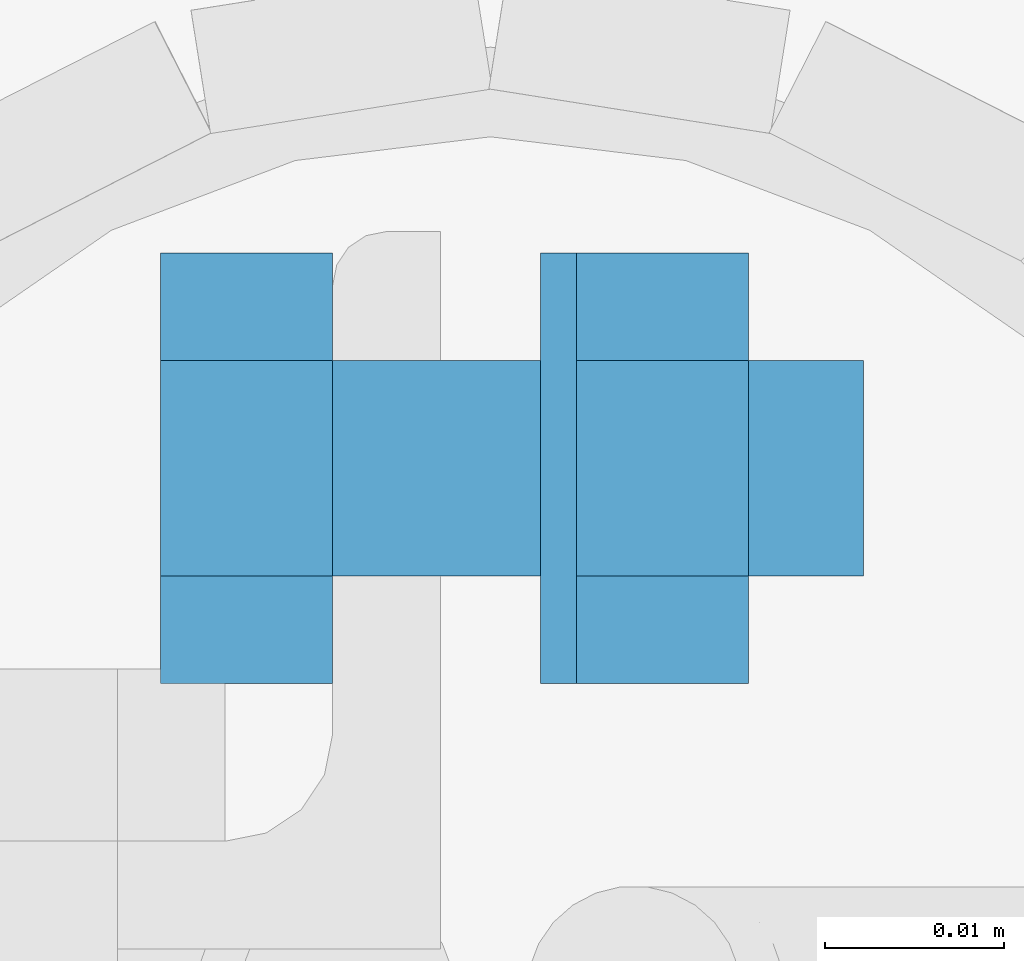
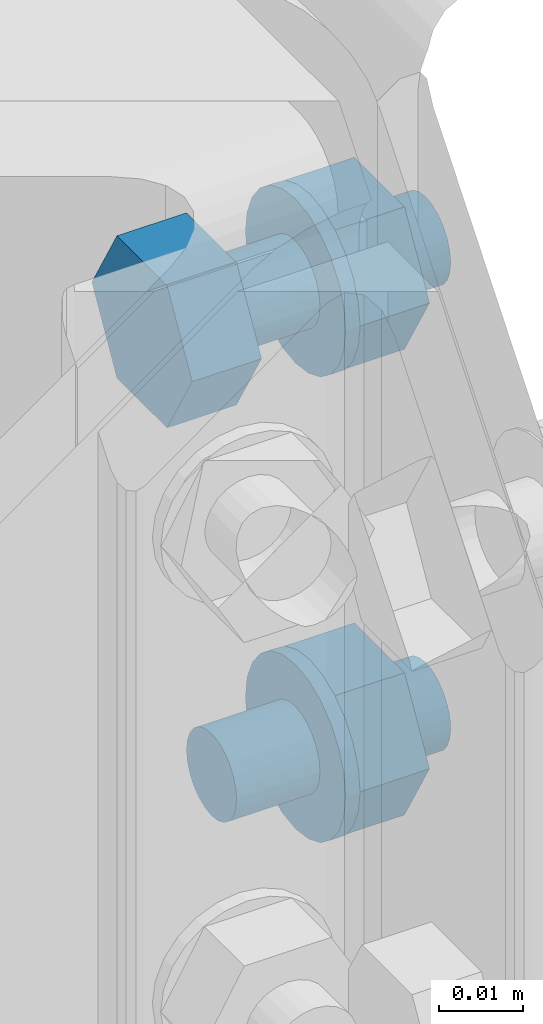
# One storey, part 23 of 84: 7 mechanical fasteners.
"""IFC4 building model written with IfcOpenShell, lengths in metres."""

import ifcopenshell
import ifcopenshell.guid

model = None  # the IFC model being written
_history = None  # IfcOwnerHistory: only IFC2X3 demands one
_inside = {}  # id of a spatial element -> (the spatial element, [elements in it])
_under = {}  # id of a project, library or spatial element -> (it, [spatial elements below it])
_declared = {}  # id of a project -> (the project, [libraries it declares])
_typed = {}  # id of a type object -> (the type object, [elements of that type])
_made_of = {}  # id of a material, layer set ... -> (it, [elements and type objects made of it])


def new_model(schema):
    """Start an empty IFC model of exactly this schema.

    Asked for "IFC4X3", IfcOpenShell would pick the latest addendum, in which some entities
    have other attributes; the version numbers below select the first issue.
    IFC2X3 requires an IfcOwnerHistory on every rooted entity: one is made here for all.
    """
    global model, _history
    if schema == "IFC4X3":
        model = ifcopenshell.file(schema_version=(4, 3, 0, 0))
    else:
        model = ifcopenshell.file(schema=schema)
    _inside.clear()
    _under.clear()
    _declared.clear()
    _typed.clear()
    _made_of.clear()
    _history = None
    if model.schema == "IFC2X3":
        org = make("IfcOrganization", Name="unknown")
        user = make(
            "IfcPersonAndOrganization",
            ThePerson=make("IfcPerson", FamilyName="unknown"),
            TheOrganization=org,
        )
        app = make(
            "IfcApplication",
            ApplicationDeveloper=org,
            Version="unknown",
            ApplicationFullName="unknown",
            ApplicationIdentifier="unknown",
        )
        _history = make(
            "IfcOwnerHistory",
            OwningUser=user,
            OwningApplication=app,
            ChangeAction="ADDED",
            CreationDate=0,
        )
    return model


def make(cls, **values):
    """One entity of the class cls with the attributes given. An attribute that is None is left unset."""
    return model.create_entity(
        cls, **{name: value for name, value in values.items() if value is not None}
    )


def rooted(cls, **values):
    """An entity with a GlobalId (a new one), such as an element, a storey or a relation."""
    return make(cls, GlobalId=ifcopenshell.guid.new(), OwnerHistory=_history, **values)


def si_unit(unit_type, name, prefix=None):
    """IfcSIUnit, for example si_unit("LENGTHUNIT", "METRE", prefix="MILLI")."""
    return make("IfcSIUnit", UnitType=unit_type, Prefix=prefix, Name=name)


def assignment(units):
    """IfcUnitAssignment: the units of a project."""
    return None if units is None else make("IfcUnitAssignment", Units=units)


def point(xyz):
    """IfcCartesianPoint."""
    return None if xyz is None else make("IfcCartesianPoint", Coordinates=xyz)


def direction(xyz):
    """IfcDirection."""
    return None if xyz is None else make("IfcDirection", DirectionRatios=xyz)


def frame(location, z_axis=None, x_axis=None):
    """IfcAxis2Placement3D, a coordinate frame: its origin and axes. An axis left out is left unset."""
    return make(
        "IfcAxis2Placement3D",
        Location=point(location),
        Axis=direction(z_axis),
        RefDirection=direction(x_axis),
    )


def origin_with_axes():
    """The frame at (0, 0, 0) with the z axis (0, 0, 1) and the x axis (1, 0, 0) written out."""
    return frame((0.0, 0.0, 0.0), z_axis=(0.0, 0.0, 1.0), x_axis=(1.0, 0.0, 0.0))


def place(relative_to, where):
    """IfcLocalPlacement: puts the frame where relative to a parent placement (None: the world)."""
    return make(
        "IfcLocalPlacement", PlacementRelTo=relative_to, RelativePlacement=where
    )


def context(
    kind, dimensions, precision=None, world=None, true_north=None, identifier=None
):
    """IfcGeometricRepresentationContext, for example the 3D "Model" context."""
    return make(
        "IfcGeometricRepresentationContext",
        ContextIdentifier=identifier,
        ContextType=kind,
        CoordinateSpaceDimension=dimensions,
        Precision=precision,
        WorldCoordinateSystem=world,
        TrueNorth=true_north,
    )


def project(units=None, contexts=None):
    """IfcProject with its units and contexts."""
    return rooted(
        "IfcProject",
        Name="project",
        RepresentationContexts=contexts,
        UnitsInContext=assignment(units),
    )


def spatial(cls, under=None, at=None, **own):
    """A site, building, storey or space (cls), placed at a placement, below another one or the project."""
    s = rooted(cls, ObjectPlacement=at, **own)
    if under is not None:
        _under.setdefault(under.id(), (under, []))[1].append(s)
    return s


def polyline(points):
    """IfcPolyline through the points."""
    return make("IfcPolyline", Points=[point(p) for p in points])


def outline(outer, holes=None, kind="AREA"):
    """IfcArbitraryClosedProfileDef: a profile drawn as a closed curve; with holes, ...WithVoids."""
    if holes is None:
        return make("IfcArbitraryClosedProfileDef", ProfileType=kind, OuterCurve=outer)
    return make(
        "IfcArbitraryProfileDefWithVoids",
        ProfileType=kind,
        OuterCurve=outer,
        InnerCurves=holes,
    )


def extrude(swept, where, along, depth):
    """IfcExtrudedAreaSolid: the profile swept, set in the frame where, extruded along a direction by depth."""
    return make(
        "IfcExtrudedAreaSolid",
        SweptArea=swept,
        Position=where,
        ExtrudedDirection=direction(along),
        Depth=depth,
    )


def shape(context_of_items, identifier, shape_type, items):
    """IfcShapeRepresentation: the items that make up one representation, for example the "Body"."""
    return make(
        "IfcShapeRepresentation",
        ContextOfItems=context_of_items,
        RepresentationIdentifier=identifier,
        RepresentationType=shape_type,
        Items=items,
    )


def made_of(thing, what):
    """Note that an element or type object is made of a material, layer set ...; save() writes the relation."""
    if what is not None:
        _made_of.setdefault(what.id(), (what, []))[1].append(thing)
    return thing


def type_object(cls, material=None, **own):
    """A type object (cls), such as IfcWallType, which elements share."""
    return made_of(rooted(cls, **own), material)


def element(
    cls,
    number,
    at=None,
    inside=None,
    cuts=None,
    type_object=None,
    material=None,
    context=None,
    identifier="Body",
    shape_type=None,
    held_by="IfcProductDefinitionShape",
    body=None,
    shapes=None,
    **own,
):
    """One element of the class cls, such as IfcWall. Its Tag is "e" and its number.

    at: its placement. inside: the storey or other place that contains it. cuts: it is an
    opening in that element (IfcRelVoidsElement). A single representation is given by context,
    identifier, shape_type and body (its items); several are given by shapes. held_by: the class
    of the entity that holds the representations. save() writes the other relations.
    """
    e = rooted(cls, Tag="e%d" % number, ObjectPlacement=at, **own)
    if body is not None:
        shapes = [shape(context, identifier, shape_type, body)]
    if shapes is not None:
        e.Representation = make(held_by, Representations=shapes)
    if inside is not None:
        _inside.setdefault(inside.id(), (inside, []))[1].append(e)
    if cuts is not None:
        rooted(
            "IfcRelVoidsElement", RelatingBuildingElement=cuts, RelatedOpeningElement=e
        )
    if type_object is not None:
        _typed.setdefault(type_object.id(), (type_object, []))[1].append(e)
    return made_of(e, material)


def aggregate(whole, parts):
    """IfcRelAggregates: a whole, such as a stair, and the parts it consists of."""
    return rooted("IfcRelAggregates", RelatingObject=whole, RelatedObjects=parts)


def save(model, path):
    """Write the relations noted so far, then the file.

    IfcRelAggregates (storeys below a building ...), IfcRelContainedInSpatialStructure (elements
    in a storey), IfcRelDefinesByType, IfcRelAssociatesMaterial and IfcRelDeclares: one each for
    every whole, place, type object, material and project.
    """
    for whole, parts in _under.values():
        aggregate(whole, parts)
    for where, things in _inside.values():
        rooted(
            "IfcRelContainedInSpatialStructure",
            RelatedElements=things,
            RelatingStructure=where,
        )
    for kind, things in _typed.values():
        rooted("IfcRelDefinesByType", RelatedObjects=things, RelatingType=kind)
    for what, things in _made_of.values():
        rooted("IfcRelAssociatesMaterial", RelatedObjects=things, RelatingMaterial=what)
    for by, libraries in _declared.values():
        rooted("IfcRelDeclares", RelatingContext=by, RelatedDefinitions=libraries)
    model.write(path)


model = new_model("IFC4")

# Units and contexts
model_context = context("Model", 3, precision=1e-05, world=origin_with_axes())
ifc_project = project(units=[si_unit("LENGTHUNIT", "METRE"), si_unit("AREAUNIT", "SQUARE_METRE"), si_unit("VOLUMEUNIT", "CUBIC_METRE"), si_unit("MASSUNIT", "GRAM", prefix="KILO"), si_unit("TIMEUNIT", "SECOND"), si_unit("PLANEANGLEUNIT", "RADIAN"), si_unit("SOLIDANGLEUNIT", "STERADIAN"), si_unit("THERMODYNAMICTEMPERATUREUNIT", "DEGREE_CELSIUS")], contexts=[model_context])

# Site, building, storey
placement_1 = place(None, origin_with_axes())
site = spatial("IfcSite", under=ifc_project, at=placement_1, Name="Italia", CompositionType="ELEMENT")
building = spatial("IfcBuilding", under=site, at=placement_1, Name="Tettoia", CompositionType="ELEMENT")
storey_placement = place(None, frame((0.0, 0.0, 4.199999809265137), z_axis=(0.0, 0.0, 1.0), x_axis=(1.0, 0.0, 0.0)))
storey = spatial("IfcBuildingStorey", under=building, at=storey_placement, Name="Storey 1", CompositionType="ELEMENT", Elevation=4.199999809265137)

# Mechanical fasteners
mechanical_fastener_type_1 = type_object("IfcMechanicalFastenerType", Name="Collegamento 0102_0101", PredefinedType="BOLT")
placement_2 = place(placement_1, origin_with_axes())
mechanical_fastener_1_placement = place(placement_2, origin_with_axes())
element("IfcMechanicalFastener", 1, at=mechanical_fastener_1_placement, inside=storey, type_object=mechanical_fastener_type_1, Name="Collegamento 0102_0101", NominalDiameter=0.012, context=model_context, shape_type="SweptSolid", body=[
    extrude(outline(polyline([(0.0, 0.0), (-0.000204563, -0.00155306), (-0.000803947, -0.00299978), (-0.00175738, -0.00424242), (-0.00300002, -0.00519609), (-0.00444722, -0.00579548), (-0.00600004, -0.00600004), (-0.00755286, -0.00579548), (-0.00900006, -0.00519609), (-0.0102427, -0.00424242), (-0.0111961, -0.00299978), (-0.0117955, -0.00155306), (-0.0120001, 0.0), (-0.0117955, 0.00155306), (-0.0111961, 0.00299978), (-0.0102427, 0.00424242), (-0.00900006, 0.00519609), (-0.00755286, 0.00579548), (-0.00600004, 0.00600004), (-0.00444722, 0.00579548), (-0.00300002, 0.00519609), (-0.00175738, 0.00424242), (-0.000803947, 0.00299978), (-0.000204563, 0.00155306), (0.0, 0.0)])), frame((11.2812, 2.0353, 4.266), z_axis=(1.0, 0.0, 0.0), x_axis=(0.0, 1.0, 0.0)), (0.0, 0.0, 1.0), 0.0295992),
])
mechanical_fastener_type_2 = type_object("IfcMechanicalFastenerType", Name="Collegamento 0102_0101", PredefinedType="BOLT")
mechanical_fastener_2_placement = place(placement_2, origin_with_axes())
element("IfcMechanicalFastener", 2, at=mechanical_fastener_2_placement, inside=storey, type_object=mechanical_fastener_type_2, Name="Collegamento 0102_0101", NominalDiameter=0.0119999, context=model_context, shape_type="SweptSolid", body=[
    extrude(outline(polyline([(0.0, 0.0), (-0.0120001, 0.0), (-0.0180001, 0.0103922), (-0.0120001, 0.0207844), (0.0, 0.0207844), (0.00600004, 0.0103922), (0.0, 0.0)])), frame((11.2948, 2.0353, 4.25561), z_axis=(1.0, 0.0, 0.0), x_axis=(0.0, 1.0, 0.0)), (0.0, 0.0, 1.0), 0.00960064),
])
mechanical_fastener_type_3 = type_object("IfcMechanicalFastenerType", Name="Collegamento 0102_0101", PredefinedType="BOLT")
mechanical_fastener_3_placement = place(placement_2, origin_with_axes())
element("IfcMechanicalFastener", 3, at=mechanical_fastener_3_placement, inside=storey, type_object=mechanical_fastener_type_3, Name="Collegamento 0102_0101", NominalDiameter=0.024, context=model_context, shape_type="SweptSolid", body=[
    extrude(outline(polyline([(0.0, 0.0), (-0.000408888, -0.00310564), (-0.00160789, -0.00600004), (-0.00351477, -0.00848532), (-0.00600004, -0.0103922), (-0.00889421, -0.011591), (-0.0120001, -0.0120001), (-0.015106, -0.011591), (-0.0180001, -0.0103922), (-0.0204854, -0.00848532), (-0.0223923, -0.00600004), (-0.0235913, -0.00310564), (-0.0240002, 0.0), (-0.0235913, 0.00310564), (-0.0223923, 0.00600004), (-0.0204854, 0.00848532), (-0.0180001, 0.0103922), (-0.015106, 0.011591), (-0.0120001, 0.0120001), (-0.00889421, 0.011591), (-0.00600004, 0.0103922), (-0.00351477, 0.00848532), (-0.00160789, 0.00600004), (-0.000408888, 0.00310564), (0.0, 0.0)])), frame((11.2928, 2.0413, 4.266), z_axis=(1.0, 0.0, 0.0), x_axis=(0.0, 1.0, 0.0)), (0.0, 0.0, 1.0), 0.00199986),
])
mechanical_fastener_type_4 = type_object("IfcMechanicalFastenerType", Name="Collegamento 0102_0101", PredefinedType="BOLT")
mechanical_fastener_4_placement = place(placement_2, origin_with_axes())
element("IfcMechanicalFastener", 4, at=mechanical_fastener_4_placement, inside=storey, type_object=mechanical_fastener_type_4, Name="Collegamento 0102_0101", NominalDiameter=0.0119999, context=model_context, shape_type="SweptSolid", body=[
    extrude(outline(polyline([(0.0, 0.0), (-0.0120001, 0.0), (-0.0180001, 0.0103922), (-0.0120001, 0.0207844), (0.0, 0.0207844), (0.00600004, 0.0103922), (0.0, 0.0)])), frame((11.2716, 2.0353, 4.32361), z_axis=(1.0, 0.0, 0.0), x_axis=(0.0, 1.0, 0.0)), (0.0, 0.0, 1.0), 0.00960064),
])
mechanical_fastener_type_5 = type_object("IfcMechanicalFastenerType", Name="Collegamento 0102_0101", PredefinedType="BOLT")
mechanical_fastener_5_placement = place(placement_2, origin_with_axes())
element("IfcMechanicalFastener", 5, at=mechanical_fastener_5_placement, inside=storey, type_object=mechanical_fastener_type_5, Name="Collegamento 0102_0101", NominalDiameter=0.012, context=model_context, shape_type="SweptSolid", body=[
    extrude(outline(polyline([(0.0, 0.0), (-0.000204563, -0.00155306), (-0.000803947, -0.00299978), (-0.00175738, -0.00424242), (-0.00300002, -0.00519609), (-0.00444722, -0.00579548), (-0.00600004, -0.00600004), (-0.00755286, -0.00579548), (-0.00900006, -0.00519609), (-0.0102427, -0.00424242), (-0.0111961, -0.00299978), (-0.0117955, -0.00155306), (-0.0120001, 0.0), (-0.0117955, 0.00155306), (-0.0111961, 0.00299978), (-0.0102427, 0.00424242), (-0.00900006, 0.00519609), (-0.00755286, 0.00579548), (-0.00600004, 0.00600004), (-0.00444722, 0.00579548), (-0.00300002, 0.00519609), (-0.00175738, 0.00424242), (-0.000803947, 0.00299978), (-0.000204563, 0.00155306), (0.0, 0.0)])), frame((11.2812, 2.0353, 4.334), z_axis=(1.0, 0.0, 0.0), x_axis=(0.0, 1.0, 0.0)), (0.0, 0.0, 1.0), 0.0295992),
])
mechanical_fastener_type_6 = type_object("IfcMechanicalFastenerType", Name="Collegamento 0102_0101", PredefinedType="BOLT")
mechanical_fastener_6_placement = place(placement_2, origin_with_axes())
element("IfcMechanicalFastener", 6, at=mechanical_fastener_6_placement, inside=storey, type_object=mechanical_fastener_type_6, Name="Collegamento 0102_0101", NominalDiameter=0.0119999, context=model_context, shape_type="SweptSolid", body=[
    extrude(outline(polyline([(0.0, 0.0), (-0.0120001, 0.0), (-0.0180001, 0.0103922), (-0.0120001, 0.0207844), (0.0, 0.0207844), (0.00600004, 0.0103922), (0.0, 0.0)])), frame((11.2948, 2.0353, 4.32361), z_axis=(1.0, 0.0, 0.0), x_axis=(0.0, 1.0, 0.0)), (0.0, 0.0, 1.0), 0.00960064),
])
mechanical_fastener_type_7 = type_object("IfcMechanicalFastenerType", Name="Collegamento 0102_0101", PredefinedType="BOLT")
mechanical_fastener_7_placement = place(placement_2, origin_with_axes())
element("IfcMechanicalFastener", 7, at=mechanical_fastener_7_placement, inside=storey, type_object=mechanical_fastener_type_7, Name="Collegamento 0102_0101", NominalDiameter=0.024, context=model_context, shape_type="SweptSolid", body=[
    extrude(outline(polyline([(0.0, 0.0), (-0.000408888, -0.00310564), (-0.00160789, -0.00600004), (-0.00351477, -0.00848532), (-0.00600004, -0.0103922), (-0.00889421, -0.011591), (-0.0120001, -0.0120001), (-0.015106, -0.011591), (-0.0180001, -0.0103922), (-0.0204854, -0.00848532), (-0.0223923, -0.00600004), (-0.0235913, -0.00310564), (-0.0240002, 0.0), (-0.0235913, 0.00310564), (-0.0223923, 0.00600004), (-0.0204854, 0.00848532), (-0.0180001, 0.0103922), (-0.015106, 0.011591), (-0.0120001, 0.0120001), (-0.00889421, 0.011591), (-0.00600004, 0.0103922), (-0.00351477, 0.00848532), (-0.00160789, 0.00600004), (-0.000408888, 0.00310564), (0.0, 0.0)])), frame((11.2928, 2.0413, 4.334), z_axis=(1.0, 0.0, 0.0), x_axis=(0.0, 1.0, 0.0)), (0.0, 0.0, 1.0), 0.00199986),
])

save(model, "model.ifc")
